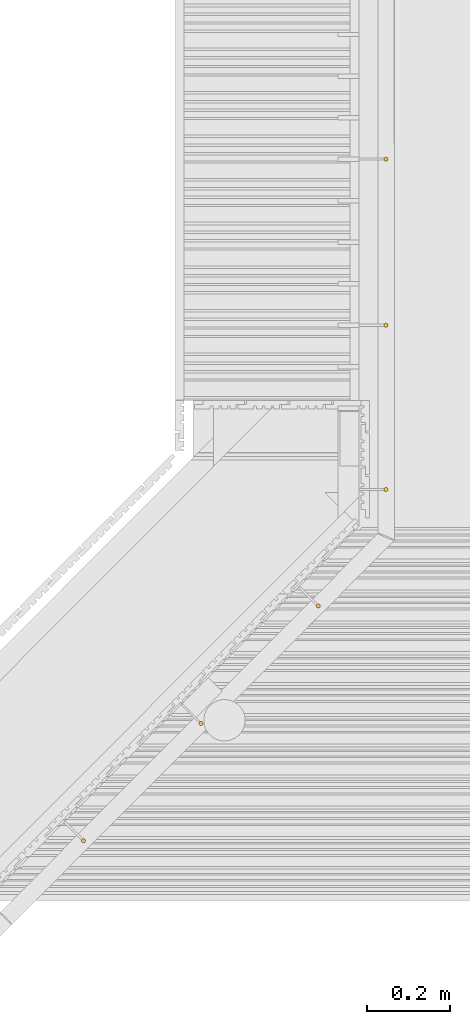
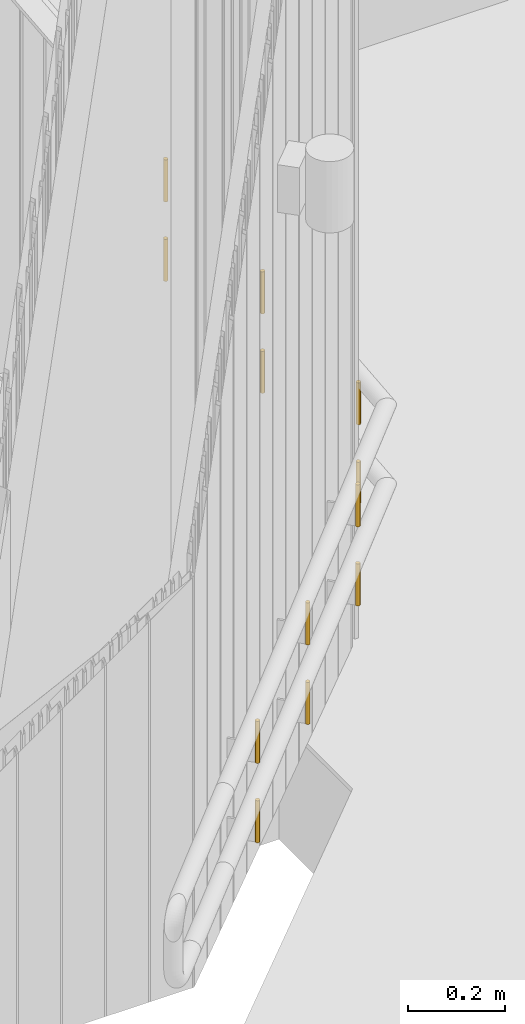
# One storey, part 155 of 418: 12 railings.
"""IFC2X3 building model written with IfcOpenShell, lengths in millimetres."""

from ifc_helpers import new_model, entity, si_unit, converted_unit, derived_unit, money_unit, direction, frame, origin_with_axes, origin_2d_with_axis, place, context, subcontext, project, spatial, circle, extrude, material, type_object, element, save


model = new_model("IFC2X3")

# Units and contexts
model_context = context("Model", 3, precision=0.01, world=origin_with_axes(), true_north=direction((0.0, 1.0)))
body_context = subcontext(model_context, "Body", "Model", "MODEL_VIEW")
ifc_project = project(units=[si_unit("LENGTHUNIT", "METRE", prefix="MILLI"), si_unit("AREAUNIT", "SQUARE_METRE"), si_unit("VOLUMEUNIT", "CUBIC_METRE"), converted_unit("PLANEANGLEUNIT", "DEGREE", entity("IfcPlaneAngleMeasure", 0.0174532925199), si_unit("PLANEANGLEUNIT", "RADIAN"), dimensions=[0, 0, 0, 0, 0, 0, 0]), si_unit("SOLIDANGLEUNIT", "STERADIAN"), money_unit("EUR"), converted_unit("TIMEUNIT", "Year", entity("IfcTimeMeasure", 31556926.0), si_unit("TIMEUNIT", "SECOND"), dimensions=[0, 0, 1, 0, 0, 0, 0]), si_unit("MASSUNIT", "GRAM", prefix="KILO"), si_unit("THERMODYNAMICTEMPERATUREUNIT", "DEGREE_CELSIUS"), si_unit("LUMINOUSINTENSITYUNIT", "LUMEN"), si_unit("ENERGYUNIT", "JOULE", prefix="MEGA"), derived_unit("THERMALCONDUCTANCEUNIT", [(si_unit("POWERUNIT", "WATT"), 1), (si_unit("LENGTHUNIT", "METRE"), -1), (si_unit("THERMODYNAMICTEMPERATUREUNIT", "KELVIN"), -1)]), derived_unit("SPECIFICHEATCAPACITYUNIT", [(si_unit("ENERGYUNIT", "JOULE"), 1), (si_unit("MASSUNIT", "GRAM", prefix="KILO"), -1), (si_unit("THERMODYNAMICTEMPERATUREUNIT", "KELVIN"), -1)]), derived_unit("MASSDENSITYUNIT", [(si_unit("MASSUNIT", "GRAM", prefix="KILO"), 1), (si_unit("VOLUMEUNIT", "CUBIC_METRE"), -1)])], contexts=[model_context])

# Site, building, storey
site_placement = place(None, origin_with_axes())
site = spatial("IfcSite", under=ifc_project, at=site_placement, Name="Paldiski mnt 245/1, Tallinn, Harjumaa", CompositionType="COMPLEX")
building_placement = place(site_placement, origin_with_axes())
building = spatial("IfcBuilding", under=site, at=building_placement, Name="RKAS Hoone üldnimetus (kasutust iseloomustav) -> IFC Project Manager -> SOLIBRI", CompositionType="ELEMENT")
storey_placement = place(building_placement, origin_with_axes())
storey = spatial("IfcBuildingStorey", under=building, at=storey_placement, Name="Esimene korrus", CompositionType="ELEMENT", Elevation=0.0)

# Railings
ifc_material = material(Name="ET-07_Teras - Roostevaba")
railing_type = type_object("IfcRailingType", Name="ET-07_Teras - Roostevaba D10", PredefinedType="NOTDEFINED")
for number, where, z_axis, x_axis in (
    (1, (-44216.9105405, -17997.3666481, 455.196086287), (0.0, 0.0, 1.0), (-0.707106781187, 0.707106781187, 0.0)),
    (2, (-44216.9105405, -17997.3666481, 255.545327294), (0.0, 0.0, 1.0), (-0.707106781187, 0.707106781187, 0.0)),
    (3, (-44054.0, -17717.0901323, 285.178432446), (0.0, 0.0, 1.0), (-1.0, 0.0, 0.0)),
    (4, (-44054.0, -16921.0901323, 565.200385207), (0.0, 0.0, 1.0), (-1.0, 0.0, 0.0)),
    (5, (-44054.0, -16921.0901323, 364.778485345), (0.0, 0.0, 1.0), (-1.0, 0.0, 0.0)),
    (6, (-44054.0, -17321.0901323, 525.200354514), (0.0, 0.0, 1.0), (-1.0, 0.0, 0.0)),
    (7, (-44782.7897292, -18563.0520731, 400.017583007), (0.0, 0.0, 1.0), (-0.707106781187, 0.707106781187, 0.0)),
    (8, (-44499.753253, -18280.2093606, 227.606046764), (0.0, 0.0, 1.0), (-0.707106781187, 0.707106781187, 0.0)),
    (9, (-44782.7897292, -18563.0520731, 199.595683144), (0.0, 0.0, 1.0), (-0.707106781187, 0.707106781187, 0.0)),
    (10, (-44054.0, -17321.0901323, 324.778454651), (0.0, 0.0, 1.0), (-1.0, 0.0, 0.0)),
    (11, (-44054.0, -17717.0901323, 485.600332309), (0.0, 0.0, 1.0), (-1.0, 0.0, 0.0)),
    (12, (-44499.753253, -18280.2093606, 428.027946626), (0.0, 0.0, 1.0), (-0.707106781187, 0.707106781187, 0.0)),
):
    element("IfcRailing", number, at=place(storey_placement, frame(where, z_axis=z_axis, x_axis=x_axis)), inside=storey, type_object=railing_type, material=ifc_material, Name="Trepipiire", PredefinedType="NOTDEFINED", context=body_context, shape_type="SweptSolid", body=[
        extrude(circle(Radius=5.0, at=origin_2d_with_axis()), frame((0.0, 0.0, 0.0), z_axis=(0.0, 0.0, -1.0), x_axis=(-1.0, 0.0, 0.0)), (0.0, 0.0, -1.0), 106.0),
    ])

save(model, "model.ifc")
